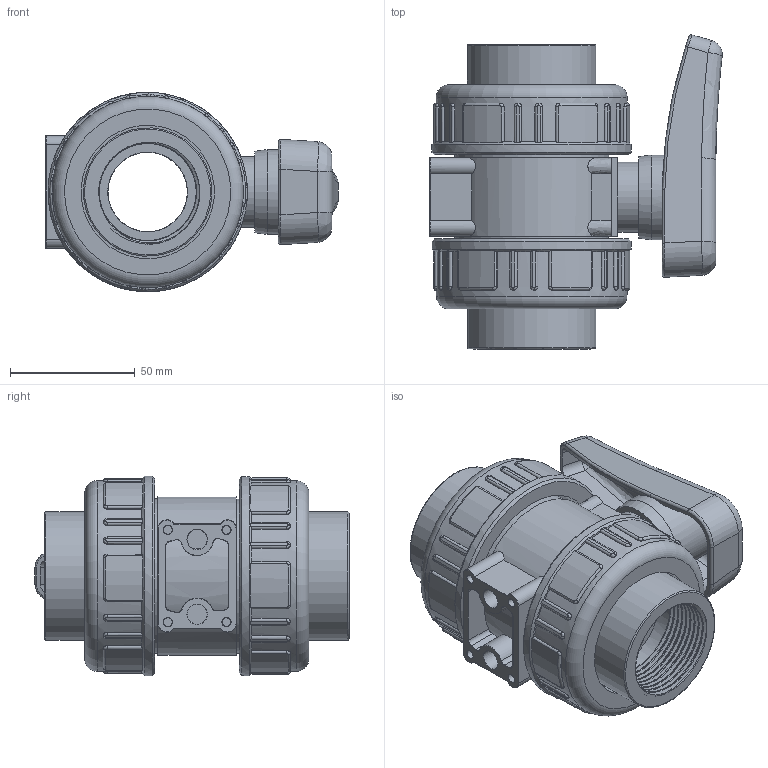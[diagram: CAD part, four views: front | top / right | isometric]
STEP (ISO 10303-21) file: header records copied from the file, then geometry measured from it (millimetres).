
FILE_DESCRIPTION(/* description */ (''),/* implementation_level */ '2;1');
FILE_NAME(/* name */ 'C:\Users\POLYPIPE\Desktop\DATASET INVENTOR\LIBRERIA EFFAST\3D_VALVOLE\3D_VALVOLE A SFERA\3D_BK1\3D_BHPBK1EH\3D_BHPBK1EH040E.stp',/* time_stamp */ '2018-01-25T17:20:56+01:00',/* author */ ('POLYPIPE'),/* organization */ (''),/* preprocessor_version */ 'ST-DEVELOPER v16.1',/* originating_system */ 'Autodesk Inventor 2016',/* authorisation */ '');
FILE_SCHEMA (('CONFIG_CONTROL_DESIGN'));
Length unit declared in the file: centimetre
Products named in the file (1): 3D_BHPBK1EH040E
Bounding box: 117.24 x 125.9 x 79.99 mm (x, y, z)
Volume: 343470.7 mm3; surface area: 107551.1 mm2
Topology: 3 solids, 4 shells, 622 faces, 1574 edges, 985 vertices
Faces by surface type: cylinder 206, plane 195, bspline 172, torus 36, cone 9, sphere 4
Full cylindrical faces by diameter (mm): 3 x4, 3.5 x4, 8 x2, 18.1 x1, 28.1 x1, 31.8 x1, 32 x2, 34 x1, 35.3 x1, 38.952 x2, 47 x1, 51 x1, 51.5 x2, 53.5 x2, 60 x2, 61.8 x2, 65.6 x2, 76.6 x2, 80 x2
Entity records: 70477 total; most frequent: CARTESIAN_POINT 55968, ORIENTED_EDGE 3020, DIRECTION 2596, EDGE_CURVE 1507, AXIS2_PLACEMENT_3D 1011, VERTEX_POINT 968, EDGE_LOOP 706, STYLED_ITEM 625
